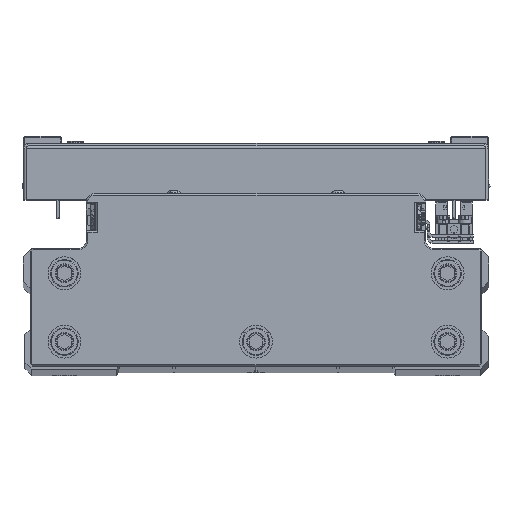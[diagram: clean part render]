
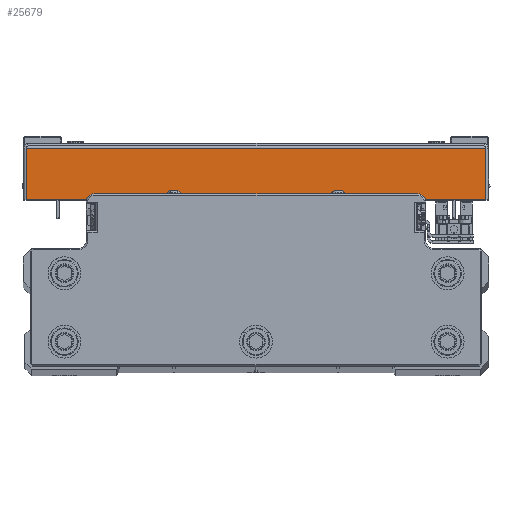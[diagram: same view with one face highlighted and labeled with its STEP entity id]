
A CAD part, top view. The second image highlights one B-rep face of the part: STEP entity #25679.
In plain terms, the highlighted planar face has unit normal (0, 0, 1) as drawn and (1, 0, 0) by its records, which use the part's own axes.
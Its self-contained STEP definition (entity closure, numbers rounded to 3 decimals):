
#796 = EDGE_CURVE ( 'NONE', #3630, #29884, #12750, .T. ) ;
#1981 = DIRECTION ( 'NONE',  ( 0., 1., 0. ) ) ;
#3462 = LINE ( 'NONE', #17604, #43913 ) ;
#3630 = VERTEX_POINT ( 'NONE', #30723 ) ;
#4265 = DIRECTION ( 'NONE',  ( 0., 1., 0. ) ) ;
#5982 = ORIENTED_EDGE ( 'NONE', *, *, #796, .T. ) ;
#6233 = ORIENTED_EDGE ( 'NONE', *, *, #36586, .F. ) ;
#6989 = CARTESIAN_POINT ( 'NONE',  ( 110., 1., -83.929 ) ) ;
#9371 = CARTESIAN_POINT ( 'NONE',  ( 110., 1., 83.929 ) ) ;
#10061 = VERTEX_POINT ( 'NONE', #9371 ) ;
#10586 = CARTESIAN_POINT ( 'NONE',  ( 110., 19.5, 83.929 ) ) ;
#12730 = DIRECTION ( 'NONE',  ( -1., 0., 0. ) ) ;
#12750 = LINE ( 'NONE', #26895, #42484 ) ;
#15614 = EDGE_CURVE ( 'NONE', #40064, #3630, #21856, .T. ) ;
#16235 = FACE_OUTER_BOUND ( 'NONE', #41611, .T. ) ;
#17604 = CARTESIAN_POINT ( 'NONE',  ( 110., 1., 85. ) ) ;
#19582 = LINE ( 'NONE', #33720, #41889 ) ;
#20269 = AXIS2_PLACEMENT_3D ( 'NONE', #44492, #12730, #26875 ) ;
#21856 = LINE ( 'NONE', #36006, #39716 ) ;
#25679 = ADVANCED_FACE ( 'NONE', ( #16235 ), #30355, .F. ) ;
#26875 = DIRECTION ( 'NONE',  ( 0., -1., 0. ) ) ;
#26895 = CARTESIAN_POINT ( 'NONE',  ( 110., 19.5, 0. ) ) ;
#27497 = ORIENTED_EDGE ( 'NONE', *, *, #40962, .F. ) ;
#28339 = ORIENTED_EDGE ( 'NONE', *, *, #15614, .T. ) ;
#29884 = VERTEX_POINT ( 'NONE', #10586 ) ;
#30355 = PLANE ( 'NONE',  #20269 ) ;
#30723 = CARTESIAN_POINT ( 'NONE',  ( 110., 19.5, -83.929 ) ) ;
#31731 = DIRECTION ( 'NONE',  ( 0., 0., 1. ) ) ;
#33720 = CARTESIAN_POINT ( 'NONE',  ( 110., 0., 83.929 ) ) ;
#36006 = CARTESIAN_POINT ( 'NONE',  ( 110., 0., -83.929 ) ) ;
#36586 = EDGE_CURVE ( 'NONE', #40064, #10061, #3462, .T. ) ;
#39716 = VECTOR ( 'NONE', #4265, 1000. ) ;
#40064 = VERTEX_POINT ( 'NONE', #6989 ) ;
#40962 = EDGE_CURVE ( 'NONE', #10061, #29884, #19582, .T. ) ;
#41031 = DIRECTION ( 'NONE',  ( 0., 0., 1. ) ) ;
#41611 = EDGE_LOOP ( 'NONE', ( #6233, #28339, #5982, #27497 ) ) ;
#41889 = VECTOR ( 'NONE', #1981, 1000. ) ;
#42484 = VECTOR ( 'NONE', #41031, 1000. ) ;
#43913 = VECTOR ( 'NONE', #31731, 1000. ) ;
#44492 = CARTESIAN_POINT ( 'NONE',  ( 110., 0., 0. ) ) ;
